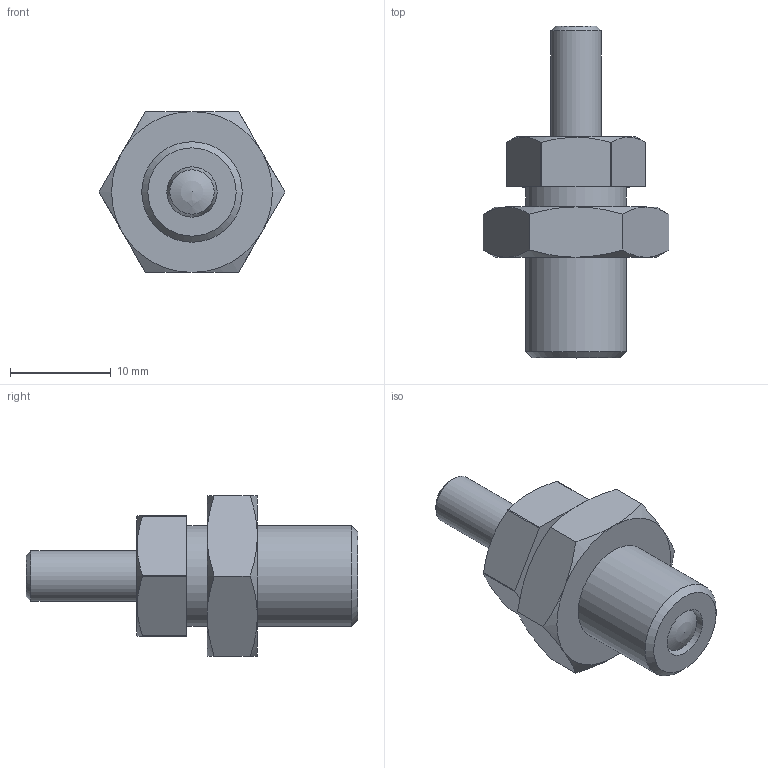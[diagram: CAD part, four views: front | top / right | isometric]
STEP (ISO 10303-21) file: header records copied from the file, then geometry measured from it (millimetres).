
FILE_DESCRIPTION( ( 'STEP AP203' ), '1' );
FILE_NAME( 'C:/Temp/Ganter_Step_05_03_2020/data/3_1/gn617_n/gn617n_gk/Stainless Steel Indexing plunger GN 617-5-GK-NI (activated-2).stp', '2020-03-12T08:43:14', ( 'License CC BY-ND 4.0' ), ( 'CADENAS' ), ' ', 'PARTsolutions', ' ' );
FILE_SCHEMA( ( 'CONFIG_CONTROL_DESIGN' ) );
Length unit declared in the file: millimetre
Products named in the file (4): Stainless Steel Indexing plunger GN 617-5-GK-NI (activated-2); _STAINLESS STEEL - Indexing plunger GN 617-5-GK-NI (2)-2; _STAINLESS STEEL - Indexing plunger GN 617-5-GK-NI (1)-1; _STAINLESS STEEL - Indexing plunger GN 617-5-GK-NI-3
Assembly tree (3 placements, depth 2):
  Stainless Steel Indexing plunger GN 617-5-GK-NI (activated-2)
    _STAINLESS STEEL - Indexing plunger GN 617-5-GK-NI (2)-2
    _STAINLESS STEEL - Indexing plunger GN 617-5-GK-NI (1)-1
    _STAINLESS STEEL - Indexing plunger GN 617-5-GK-NI-3
Bounding box: 18.48 x 33 x 16 mm (x, y, z)
Volume: 2781.6 mm3; surface area: 2723.7 mm2
Topology: 3 solids, 3 shells, 55 faces, 118 edges, 73 vertices
Faces by surface type: plane 22, cone 18, cylinder 14, sphere 1
Full cylindrical faces by diameter (mm): 5 x4, 8 x2, 8.917 x1, 10 x1
Entity records: 1659 total; most frequent: CARTESIAN_POINT 420, DIRECTION 234, ORIENTED_EDGE 200, AXIS2_PLACEMENT_3D 105, EDGE_CURVE 100, EDGE_LOOP 78, VERTEX_POINT 71, FACE_OUTER_BOUND 63
